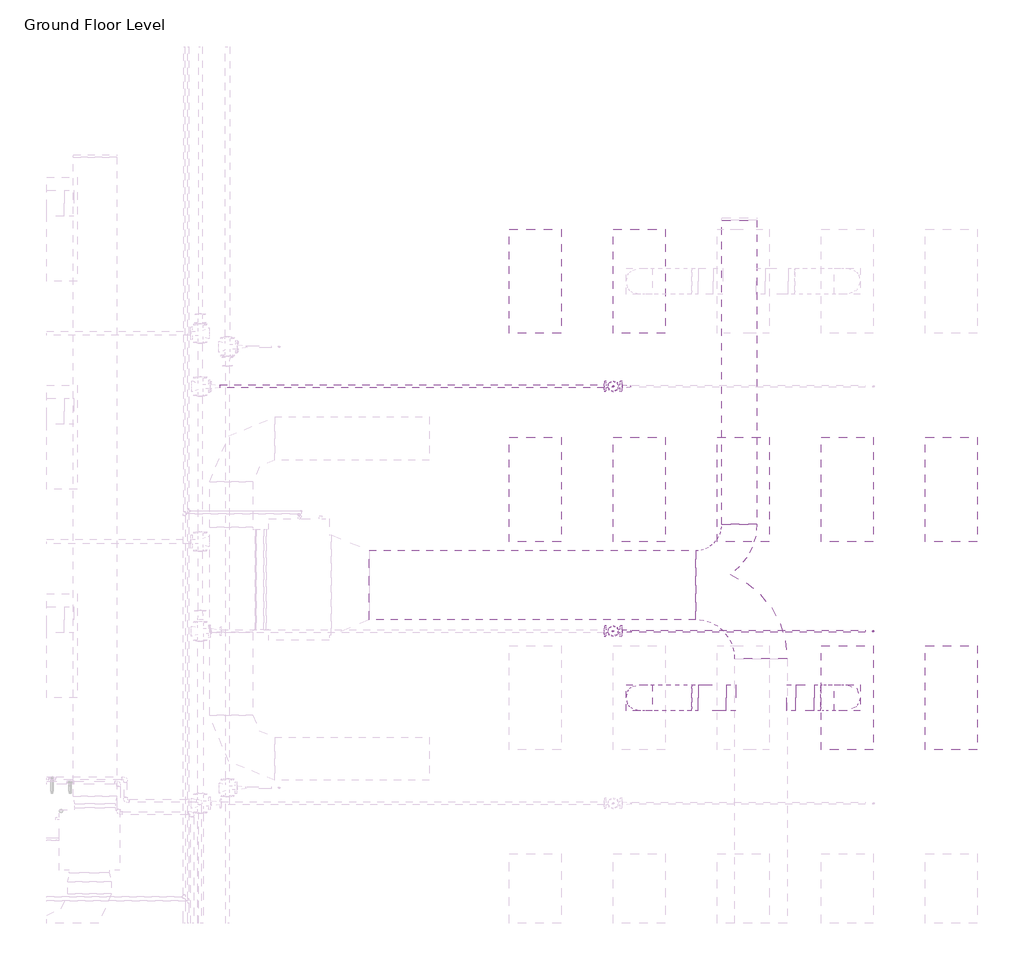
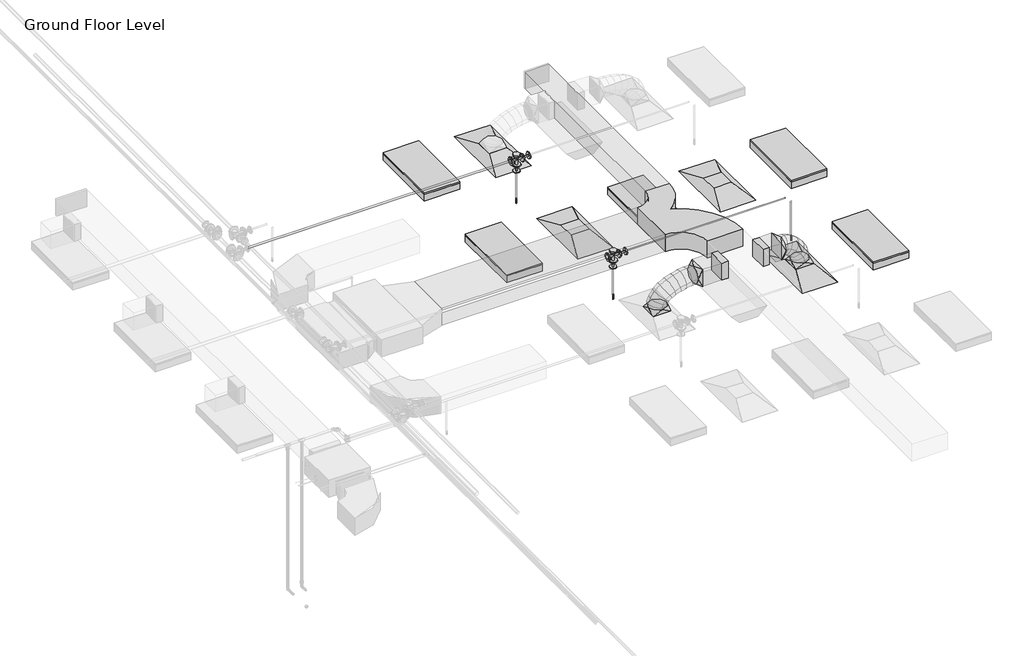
# One storey, part 28 of 75: 7 duct fittings, 6 duct segments, 6 pipe fittings, 5 light fixtures, 5 pipe segments, 4 air terminals, 3 fire suppression terminals.
"""IFC4 building model written with IfcOpenShell, lengths in millimetres."""

from ifc_helpers import new_model, si_unit, point, frame, frame_2d, origin, place, context, project, spatial, polyline, circle_curve, ellipse_curve, trimmed, segment, composite_curve, outline, extrude, transform, mapped, element, save
from ifc_brep_helpers import plane_surface, cylinder_surface, advanced_brep
from components import m_return_diffuser_1200x600_1200_x_600_face_300_x_300_d1983ef6, m_rectangular_takeoff_standard_cb0ccb98, m_rectangular_takeoff_standard_2be5eba1, m_rectangular_wye_curved_transition_standard_4ceeb4da, m_rectangular_to_round_transition_angle_45_degree_641efff0, m_sprinkler_dry_pendent_hosted_15_mm_dry_pendent_9bda8e11, m_troffer_light_parabolic_rectangular1_0600x1200mm_4_lamp_86473d4a, m_reducer_flanged_cs_class_150_standard_ccf252ad, m_tee_round_base_flanged_cs_class_150_standard_7e5987a1

model = new_model("IFC4")

# Units and contexts
model_context = context("Model", 3, world=origin())
ifc_project = project(units=[si_unit("LENGTHUNIT", "METRE", prefix="MILLI")], contexts=[model_context])

# Site, building, storey
site = spatial("IfcSite", under=ifc_project)
building = spatial("IfcBuilding", under=site)
storey = spatial("IfcBuildingStorey", under=building, Name="Ground Floor Level", Elevation=900.0)

# Air terminals
placement = place(None, origin())
m_return_diffuser_1200x600_1200_x_600_face_300_x_300_shape = m_return_diffuser_1200x600_1200_x_600_face_300_x_300_d1983ef6(model_context)
element("IfcAirTerminal", 1, ObjectType="M_Return Diffuser 1200x600 : 1200 x 600 Face 300 x 300 Connection", at=placement, inside=storey, context=model_context, shape_type="MappedRepresentation", body=[
    mapped(m_return_diffuser_1200x600_1200_x_600_face_300_x_300_shape, transform((10743.0482736, -20464.7846466, 3650.0), x_axis=(0.0, 1.0, 0.0), y_axis=(-1.0, 0.0, 0.0), z_axis=(0.0, 0.0, 1.0))),
])
element("IfcAirTerminal", 2, ObjectType="M_Return Diffuser 1200x600 : 1200 x 600 Face 300 x 300 Connection", at=placement, inside=storey, context=model_context, shape_type="MappedRepresentation", body=[
    mapped(m_return_diffuser_1200x600_1200_x_600_face_300_x_300_shape, transform((13143.0482736, -20464.7846466, 3650.0), x_axis=(0.0, 1.0, 0.0), y_axis=(-1.0, 0.0, 0.0), z_axis=(0.0, 0.0, 1.0))),
])
element("IfcAirTerminal", 3, ObjectType="M_Supply Diffuser 1200x600 : 1200 x 600 Face 300 x 300 Connection", at=placement, inside=storey, context=model_context, shape_type="MappedRepresentation", body=[
    mapped(m_return_diffuser_1200x600_1200_x_600_face_300_x_300_shape, transform((10743.0482736, -18064.7846466, 3650.0), x_axis=(0.0, 1.0, 0.0), y_axis=(-1.0, 0.0, 0.0), z_axis=(0.0, 0.0, 1.0))),
])
element("IfcAirTerminal", 4, ObjectType="M_Supply Diffuser 1200x600 : 1200 x 600 Face 300 x 300 Connection", at=placement, inside=storey, context=model_context, shape_type="MappedRepresentation", body=[
    mapped(m_return_diffuser_1200x600_1200_x_600_face_300_x_300_shape, transform((13143.0482736, -22864.7846466, 3650.0), x_axis=(0.0, 1.0, 0.0), y_axis=(-1.0, 0.0, 0.0), z_axis=(0.0, 0.0, 1.0))),
])

# Duct fittings
m_rectangular_takeoff_standard_shape = m_rectangular_takeoff_standard_cb0ccb98(model_context)
element("IfcDuctFitting", 5, ObjectType="M_Rectangular Takeoff : Standard", at=placement, inside=storey, context=model_context, shape_type="MappedRepresentation", body=[
    mapped(m_rectangular_takeoff_standard_shape, transform((12447.7826463, -22864.7846466, 4150.0), x_axis=(1.0, 0.0, 0.0), y_axis=(0.0, -1.0, 0.0), z_axis=(0.0, 0.0, -1.0))),
])
m_rectangular_takeoff_standard_2_shape = m_rectangular_takeoff_standard_2be5eba1(model_context)
element("IfcDuctFitting", 6, ObjectType="M_Rectangular Takeoff : Standard", at=placement, inside=storey, context=model_context, shape_type="MappedRepresentation", body=[
    mapped(m_rectangular_takeoff_standard_2_shape, transform((11847.7826463, -22864.7846466, 4150.0), x_axis=(-1.0, 0.0, 0.0), y_axis=(0.0, 1.0, 0.0), z_axis=(0.0, 0.0, -1.0))),
])
m_rectangular_wye_curved_transition_standard_shape = m_rectangular_wye_curved_transition_standard_4ceeb4da(model_context)
element("IfcDuctFitting", 7, ObjectType="M_Rectangular Wye - Curved - Transition : Standard", at=placement, inside=storey, context=model_context, shape_type="MappedRepresentation", body=[
    mapped(m_rectangular_wye_curved_transition_standard_shape, transform((12022.7826463, -21566.5689179, 4150.0003003), x_axis=(0.0, 1.0, 0.0), y_axis=(-0.9999999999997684, 0.0, 6.806625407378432e-07), z_axis=(6.806625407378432e-07, 0.0, 0.9999999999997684))),
])
m_rectangular_to_round_transition_angle_45_degree_shape = m_rectangular_to_round_transition_angle_45_degree_641efff0(model_context)
element("IfcDuctFitting", 8, ObjectType="M_Rectangular to Round Transition - Angle : 45 Degree", at=placement, inside=storey, context=model_context, shape_type="MappedRepresentation", body=[
    mapped(m_rectangular_to_round_transition_angle_45_degree_shape, transform((10743.0482736, -22864.7846466, 3751.6), x_axis=(0.0, 0.0, 1.0), y_axis=(-1.0, 0.0, 0.0), z_axis=(0.0, -1.0, 0.0))),
])
element("IfcDuctFitting", 9, ObjectType="M_Rectangular to Round Transition - Angle : 45 Degree", at=placement, inside=storey, context=model_context, shape_type="MappedRepresentation", body=[
    mapped(m_rectangular_to_round_transition_angle_45_degree_shape, transform((11424.4842049, -22864.7846466, 4150.0), x_axis=(-1.0, 0.0, 0.0), y_axis=(0.0, -1.0, 0.0), z_axis=(0.0, 0.0, 1.0))),
])
element("IfcDuctFitting", 10, ObjectType="M_Rectangular to Round Transition - Angle : 45 Degree", at=placement, inside=storey, context=model_context, shape_type="MappedRepresentation", body=[
    mapped(m_rectangular_to_round_transition_angle_45_degree_shape, transform((13143.0482736, -22864.7846466, 3751.6), x_axis=(0.0, 0.0, 1.0), y_axis=(-1.0, 0.0, 0.0), z_axis=(0.0, -1.0, 0.0))),
])
element("IfcDuctFitting", 11, ObjectType="M_Rectangular to Round Transition - Angle : 45 Degree", at=placement, inside=storey, context=model_context, shape_type="MappedRepresentation", body=[
    mapped(m_rectangular_to_round_transition_angle_45_degree_shape, transform((12761.6125477, -22864.7846466, 4150.0), x_axis=(1.0, 0.0, 0.0), y_axis=(0.0, 1.0, 0.0), z_axis=(0.0, 0.0, 1.0))),
])

# Duct segments
element("IfcDuctSegment", 12, ObjectType="Flex - Round", at=placement, inside=storey, context=model_context, shape_type="AdvancedBrep", body=[
    advanced_brep(
    [(10893.0482736, -22864.7846466, 3826.6), (10743.0482736, -23014.7846466, 3826.6), (10593.0482736, -22864.7846466, 3826.6), (10743.0482736, -22714.7846466, 3826.6), (10893.0482736, -22864.7846466, 3832.4838104), (10743.0482736, -23014.7846466, 3857.3049615), (10593.0482736, -22864.7846466, 3882.1261126), (10743.0482736, -22714.7846466, 3857.3049615), (10895.1777586, -22864.7846466, 3838.7421096), (10759.7096782, -23014.7846466, 3906.2708192), (10624.2415979, -22864.7846466, 3973.7995287), (10759.7096782, -22714.7846466, 3906.2708192), (10917.1997864, -22864.7846466, 3871.1472855), (10805.5876959, -23014.7846466, 3973.7798261), (10693.9756053, -22864.7846466, 4076.4123668), (10805.5876959, -22714.7846466, 3973.7798261), (10957.142511, -22864.7846466, 3903.4915826), (10874.5230324, -23014.7846466, 4029.6013814), (10791.9035539, -22864.7846466, 4155.7111802), (10874.5230324, -22714.7846466, 4029.6013814), (11020.0646936, -22864.7846466, 3936.1928758), (10960.3563938, -23014.7846466, 4074.2098454), (10900.6480941, -22864.7846466, 4212.226815), (10960.3563938, -22714.7846466, 4074.2098454), (11098.9170855, -22864.7846466, 3963.8479616), (11056.9284859, -23014.7846466, 4108.0795788), (11014.9398863, -22864.7846466, 4252.311196), (11056.9284859, -22714.7846466, 4108.0795788), (11185.4890682, -22864.7846466, 3984.0509494), (11158.0800145, -23014.7846466, 4131.684942), (11130.6709609, -22864.7846466, 4279.3189347), (11158.0800145, -22714.7846466, 4131.684942), (11271.9732516, -22864.7846466, 3996.0504424), (11257.6516856, -23014.7846466, 4145.5002956), (11243.3301196, -22864.7846466, 4294.9501488), (11257.6516856, -22714.7846466, 4145.5002956), (11346.1345531, -22864.7846466, 4000.0), (11342.1431577, -23014.7846466, 4150.0), (11338.1517622, -22864.7846466, 4300.0), (11342.1431577, -22714.7846466, 4150.0), (11349.4842049, -22864.7846466, 4000.0), (11349.4842049, -22714.7846466, 4150.0), (11349.4842049, -22864.7846466, 4300.0), (11349.4842049, -23014.7846466, 4150.0)],
    [
        (0, 1, circle_curve(frame((10743.0482736, -22864.7846466, 3826.6), z_axis=(0.0, 0.0, -1.0), x_axis=(1.0, 0.0, 0.0)), 150.0)),
        (1, 2, circle_curve(frame((10743.0482736, -22864.7846466, 3826.6), z_axis=(0.0, 0.0, -1.0), x_axis=(1.0, 0.0, 0.0)), 150.0)),
        (2, 3, circle_curve(frame((10743.0482736, -22864.7846466, 3826.6), z_axis=(0.0, 0.0, -1.0), x_axis=(1.0, 0.0, 0.0)), 150.0)),
        (3, 0, circle_curve(frame((10743.0482736, -22864.7846466, 3826.6), z_axis=(0.0, 0.0, -1.0), x_axis=(1.0, 0.0, 0.0)), 150.0)),
        (0, 4),
        (4, 5, ellipse_curve(frame((10743.0482736, -22864.7846466, 3857.3049615), z_axis=(-0.1632543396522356, 0.0, -0.9865840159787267), x_axis=(0.9865840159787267, 0.0, -0.16325433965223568)), 152.039763, 150.0)),
        (5, 1),
        (5, 6, ellipse_curve(frame((10743.0482736, -22864.7846466, 3857.3049615), z_axis=(-0.1632543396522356, 0.0, -0.9865840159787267), x_axis=(0.9865840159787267, 0.0, -0.16325433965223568)), 152.039763, 150.0)),
        (6, 2),
        (6, 7, ellipse_curve(frame((10743.0482736, -22864.7846466, 3857.3049615), z_axis=(-0.1632543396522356, 0.0, -0.9865840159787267), x_axis=(0.9865840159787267, 0.0, -0.16325433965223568)), 152.039763, 150.0)),
        (7, 3),
        (7, 4, ellipse_curve(frame((10743.0482736, -22864.7846466, 3857.3049615), z_axis=(-0.1632543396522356, 0.0, -0.9865840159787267), x_axis=(0.9865840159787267, 0.0, -0.16325433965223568)), 152.039763, 150.0)),
        (4, 8),
        (8, 9, ellipse_curve(frame((10759.7096782, -22864.7846466, 3906.2708192), z_axis=(-0.4461280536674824, 0.0, -0.8949691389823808), x_axis=(0.8949691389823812, 0.0, -0.44612805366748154)), 151.366203, 150.0)),
        (9, 5),
        (9, 10, ellipse_curve(frame((10759.7096782, -22864.7846466, 3906.2708192), z_axis=(-0.4461280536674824, 0.0, -0.8949691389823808), x_axis=(0.8949691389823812, 0.0, -0.44612805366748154)), 151.366203, 150.0)),
        (10, 6),
        (10, 11, ellipse_curve(frame((10759.7096782, -22864.7846466, 3906.2708192), z_axis=(-0.4461280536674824, 0.0, -0.8949691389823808), x_axis=(0.8949691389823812, 0.0, -0.44612805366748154)), 151.366203, 150.0)),
        (11, 7),
        (11, 8, ellipse_curve(frame((10759.7096782, -22864.7846466, 3906.2708192), z_axis=(-0.4461280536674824, 0.0, -0.8949691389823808), x_axis=(0.8949691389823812, 0.0, -0.44612805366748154)), 151.366203, 150.0)),
        (8, 12),
        (12, 13, ellipse_curve(frame((10805.5876959, -22864.7846466, 3973.7798261), z_axis=(-0.6768758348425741, 0.0, -0.7360972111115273), x_axis=(0.7360972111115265, 0.0, -0.6768758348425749)), 151.6268352, 150.0)),
        (13, 9),
        (13, 14, ellipse_curve(frame((10805.5876959, -22864.7846466, 3973.7798261), z_axis=(-0.6768758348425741, 0.0, -0.7360972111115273), x_axis=(0.7360972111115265, 0.0, -0.6768758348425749)), 151.6268352, 150.0)),
        (14, 10),
        (14, 15, ellipse_curve(frame((10805.5876959, -22864.7846466, 3973.7798261), z_axis=(-0.6768758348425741, 0.0, -0.7360972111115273), x_axis=(0.7360972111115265, 0.0, -0.6768758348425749)), 151.6268352, 150.0)),
        (15, 11),
        (15, 12, ellipse_curve(frame((10805.5876959, -22864.7846466, 3973.7798261), z_axis=(-0.6768758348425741, 0.0, -0.7360972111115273), x_axis=(0.7360972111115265, 0.0, -0.6768758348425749)), 151.6268352, 150.0)),
        (12, 16),
        (16, 17, ellipse_curve(frame((10874.5230324, -22864.7846466, 4029.6013814), z_axis=(-0.8364738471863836, 0.0, -0.5480068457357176), x_axis=(0.5480068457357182, 0.0, -0.8364738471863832)), 150.7635884, 150.0)),
        (17, 13),
        (17, 18, ellipse_curve(frame((10874.5230324, -22864.7846466, 4029.6013814), z_axis=(-0.8364738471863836, 0.0, -0.5480068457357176), x_axis=(0.5480068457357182, 0.0, -0.8364738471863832)), 150.7635884, 150.0)),
        (18, 14),
        (18, 19, ellipse_curve(frame((10874.5230324, -22864.7846466, 4029.6013814), z_axis=(-0.8364738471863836, 0.0, -0.5480068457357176), x_axis=(0.5480068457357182, 0.0, -0.8364738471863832)), 150.7635884, 150.0)),
        (19, 15),
        (19, 16, ellipse_curve(frame((10874.5230324, -22864.7846466, 4029.6013814), z_axis=(-0.8364738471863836, 0.0, -0.5480068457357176), x_axis=(0.5480068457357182, 0.0, -0.8364738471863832)), 150.7635884, 150.0)),
        (16, 20),
        (20, 21, ellipse_curve(frame((10960.3563938, -22864.7846466, 4074.2098454), z_axis=(-0.9177957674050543, 0.0, -0.3970528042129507), x_axis=(0.3970528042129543, 0.0, -0.9177957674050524)), 150.3787384, 150.0)),
        (21, 17),
        (21, 22, ellipse_curve(frame((10960.3563938, -22864.7846466, 4074.2098454), z_axis=(-0.9177957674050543, 0.0, -0.3970528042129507), x_axis=(0.3970528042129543, 0.0, -0.9177957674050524)), 150.3787384, 150.0)),
        (22, 18),
        (22, 23, ellipse_curve(frame((10960.3563938, -22864.7846466, 4074.2098454), z_axis=(-0.9177957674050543, 0.0, -0.3970528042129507), x_axis=(0.3970528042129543, 0.0, -0.9177957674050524)), 150.3787384, 150.0)),
        (23, 19),
        (23, 20, ellipse_curve(frame((10960.3563938, -22864.7846466, 4074.2098454), z_axis=(-0.9177957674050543, 0.0, -0.3970528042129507), x_axis=(0.3970528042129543, 0.0, -0.9177957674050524)), 150.3787384, 150.0)),
        (20, 24),
        (24, 25, ellipse_curve(frame((11056.9284859, -22864.7846466, 4108.0795788), z_axis=(-0.9601411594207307, 0.0, -0.27951557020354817), x_axis=(0.2795155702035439, 0.0, -0.9601411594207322)), 150.2191795, 150.0)),
        (25, 21),
        (25, 26, ellipse_curve(frame((11056.9284859, -22864.7846466, 4108.0795788), z_axis=(-0.9601411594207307, 0.0, -0.27951557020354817), x_axis=(0.2795155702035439, 0.0, -0.9601411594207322)), 150.2191795, 150.0)),
        (26, 22),
        (26, 27, ellipse_curve(frame((11056.9284859, -22864.7846466, 4108.0795788), z_axis=(-0.9601411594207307, 0.0, -0.27951557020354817), x_axis=(0.2795155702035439, 0.0, -0.9601411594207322)), 150.2191795, 150.0)),
        (27, 23),
        (27, 24, ellipse_curve(frame((11056.9284859, -22864.7846466, 4108.0795788), z_axis=(-0.9601411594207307, 0.0, -0.27951557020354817), x_axis=(0.2795155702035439, 0.0, -0.9601411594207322)), 150.2191795, 150.0)),
        (24, 28),
        (28, 29, ellipse_curve(frame((11158.0800145, -22864.7846466, 4131.684942), z_axis=(-0.9831991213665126, 0.0, -0.1825362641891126), x_axis=(0.18253626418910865, 0.0, -0.9831991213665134)), 150.1567581, 150.0)),
        (29, 25),
        (29, 30, ellipse_curve(frame((11158.0800145, -22864.7846466, 4131.684942), z_axis=(-0.9831991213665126, 0.0, -0.1825362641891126), x_axis=(0.18253626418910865, 0.0, -0.9831991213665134)), 150.1567581, 150.0)),
        (30, 26),
        (30, 31, ellipse_curve(frame((11158.0800145, -22864.7846466, 4131.684942), z_axis=(-0.9831991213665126, 0.0, -0.1825362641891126), x_axis=(0.18253626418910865, 0.0, -0.9831991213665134)), 150.1567581, 150.0)),
        (31, 27),
        (31, 28, ellipse_curve(frame((11158.0800145, -22864.7846466, 4131.684942), z_axis=(-0.9831991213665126, 0.0, -0.1825362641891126), x_axis=(0.18253626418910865, 0.0, -0.9831991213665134)), 150.1567581, 150.0)),
        (28, 32),
        (32, 33, ellipse_curve(frame((11257.6516856, -22864.7846466, 4145.5002956), z_axis=(-0.9954398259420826, 0.0, -0.09539157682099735), x_axis=(0.09539157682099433, 0.0, -0.9954398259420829)), 150.1344926, 150.0)),
        (33, 29),
        (33, 34, ellipse_curve(frame((11257.6516856, -22864.7846466, 4145.5002956), z_axis=(-0.9954398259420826, 0.0, -0.09539157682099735), x_axis=(0.09539157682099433, 0.0, -0.9954398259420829)), 150.1344926, 150.0)),
        (34, 30),
        (34, 35, ellipse_curve(frame((11257.6516856, -22864.7846466, 4145.5002956), z_axis=(-0.9954398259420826, 0.0, -0.09539157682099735), x_axis=(0.09539157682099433, 0.0, -0.9954398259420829)), 150.1344926, 150.0)),
        (35, 31),
        (35, 32, ellipse_curve(frame((11257.6516856, -22864.7846466, 4145.5002956), z_axis=(-0.9954398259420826, 0.0, -0.09539157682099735), x_axis=(0.09539157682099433, 0.0, -0.9954398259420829)), 150.1344926, 150.0)),
        (32, 36),
        (36, 37, ellipse_curve(frame((11342.1431577, -22864.7846466, 4150.0), z_axis=(-0.9996461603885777, 0.0, -0.02659988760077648), x_axis=(0.026599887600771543, 0.0, -0.9996461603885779)), 150.0530947, 150.0)),
        (37, 33),
        (37, 38, ellipse_curve(frame((11342.1431577, -22864.7846466, 4150.0), z_axis=(-0.9996461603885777, 0.0, -0.02659988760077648), x_axis=(0.026599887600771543, 0.0, -0.9996461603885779)), 150.0530947, 150.0)),
        (38, 34),
        (38, 39, ellipse_curve(frame((11342.1431577, -22864.7846466, 4150.0), z_axis=(-0.9996461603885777, 0.0, -0.02659988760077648), x_axis=(0.026599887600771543, 0.0, -0.9996461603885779)), 150.0530947, 150.0)),
        (39, 35),
        (39, 36, ellipse_curve(frame((11342.1431577, -22864.7846466, 4150.0), z_axis=(-0.9996461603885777, 0.0, -0.02659988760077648), x_axis=(0.026599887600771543, 0.0, -0.9996461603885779)), 150.0530947, 150.0)),
        (40, 41, circle_curve(frame((11349.4842049, -22864.7846466, 4150.0), z_axis=(1.0, 0.0, 0.0), x_axis=(0.0, 0.0, -1.0)), 150.0)),
        (41, 42, circle_curve(frame((11349.4842049, -22864.7846466, 4150.0), z_axis=(1.0, 0.0, 0.0), x_axis=(0.0, 0.0, -1.0)), 150.0)),
        (42, 43, circle_curve(frame((11349.4842049, -22864.7846466, 4150.0), z_axis=(1.0, 0.0, 0.0), x_axis=(0.0, 0.0, -1.0)), 150.0)),
        (43, 40, circle_curve(frame((11349.4842049, -22864.7846466, 4150.0), z_axis=(1.0, 0.0, 0.0), x_axis=(0.0, 0.0, -1.0)), 150.0)),
        (36, 40),
        (43, 37),
        (42, 38),
        (41, 39),
    ],
    [
        plane_surface(frame((10743.0482736, -23014.7846466, 3826.6), z_axis=(0.0, 0.0, -1.0), x_axis=(1.0, 0.0, 0.0))),
        cylinder_surface(frame((10743.0482736, -22864.7846466, 3826.6), z_axis=(0.0, 0.0, -1.0), x_axis=(1.0, 0.0, 0.0)), 150.0),
        cylinder_surface(frame((10743.0482736, -22864.7846466, 3857.3049615), z_axis=(-0.32212824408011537, 0.0, -0.946696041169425), x_axis=(0.946696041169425, 0.0, -0.32212824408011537)), 150.0),
        cylinder_surface(frame((10759.7096782, -22864.7846466, 3906.2708192), z_axis=(-0.5620745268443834, 0.0, -0.827086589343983), x_axis=(0.827086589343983, 0.0, -0.5620745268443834)), 150.0),
        cylinder_surface(frame((10805.5876959, -22864.7846466, 3973.7798261), z_axis=(-0.7771524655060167, 0.0, -0.6293123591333), x_axis=(0.6293123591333, 0.0, -0.7771524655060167)), 150.0),
        cylinder_surface(frame((10874.5230324, -22864.7846466, 4029.6013814), z_axis=(-0.8873220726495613, 0.0, -0.4611502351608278), x_axis=(0.4611502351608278, 0.0, -0.8873220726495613)), 150.0),
        cylinder_surface(frame((10960.3563938, -22864.7846466, 4074.2098454), z_axis=(-0.9436464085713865, 0.0, -0.33095536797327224), x_axis=(0.33095536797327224, 0.0, -0.9436464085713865)), 150.0),
        cylinder_surface(frame((11056.9284859, -22864.7846466, 4108.0795788), z_axis=(-0.9738340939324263, 0.0, -0.22726010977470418), x_axis=(0.22726010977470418, 0.0, -0.9738340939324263)), 150.0),
        cylinder_surface(frame((11158.0800145, -22864.7846466, 4131.684942), z_axis=(-0.9905113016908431, 0.0, -0.13743129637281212), x_axis=(0.13743129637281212, 0.0, -0.9905113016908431)), 150.0),
        cylinder_surface(frame((11257.6516856, -22864.7846466, 4145.5002956), z_axis=(-0.9985848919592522, 0.0, -0.05318095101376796), x_axis=(0.05318095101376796, 0.0, -0.9985848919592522)), 150.0),
        plane_surface(frame((11349.4842049, -22864.7846466, 4000.0), z_axis=(1.0, 0.0, 0.0), x_axis=(0.0, 1.0, 0.0))),
        cylinder_surface(frame((11342.1431577, -22864.7846466, 4150.0), z_axis=(-1.0, 0.0, 0.0), x_axis=(0.0, 0.0, -1.0)), 150.0),
    ],
    [
        (0, [[1, 2, 3, 4]]),
        (1, [[-1, 5, 6, 7]]),
        (1, [[-2, -7, 8, 9]]),
        (1, [[-3, -9, 10, 11]]),
        (1, [[-4, -11, 12, -5]]),
        (2, [[-6, 13, 14, 15]]),
        (2, [[-8, -15, 16, 17]]),
        (2, [[-10, -17, 18, 19]]),
        (2, [[-12, -19, 20, -13]]),
        (3, [[-14, 21, 22, 23]]),
        (3, [[-16, -23, 24, 25]]),
        (3, [[-18, -25, 26, 27]]),
        (3, [[-20, -27, 28, -21]]),
        (4, [[-22, 29, 30, 31]]),
        (4, [[-24, -31, 32, 33]]),
        (4, [[-26, -33, 34, 35]]),
        (4, [[-28, -35, 36, -29]]),
        (5, [[-30, 37, 38, 39]]),
        (5, [[-32, -39, 40, 41]]),
        (5, [[-34, -41, 42, 43]]),
        (5, [[-36, -43, 44, -37]]),
        (6, [[-38, 45, 46, 47]]),
        (6, [[-40, -47, 48, 49]]),
        (6, [[-42, -49, 50, 51]]),
        (6, [[-44, -51, 52, -45]]),
        (7, [[-46, 53, 54, 55]]),
        (7, [[-48, -55, 56, 57]]),
        (7, [[-50, -57, 58, 59]]),
        (7, [[-52, -59, 60, -53]]),
        (8, [[-54, 61, 62, 63]]),
        (8, [[-56, -63, 64, 65]]),
        (8, [[-58, -65, 66, 67]]),
        (8, [[-60, -67, 68, -61]]),
        (9, [[-62, 69, 70, 71]]),
        (9, [[-64, -71, 72, 73]]),
        (9, [[-66, -73, 74, 75]]),
        (9, [[-68, -75, 76, -69]]),
        (10, [[77, 78, 79, 80]]),
        (11, [[-70, 81, -80, 82]]),
        (11, [[-72, -82, -79, 83]]),
        (11, [[-74, -83, -78, 84]]),
        (11, [[-76, -84, -77, -81]]),
    ],
),
])
element("IfcDuctSegment", 13, ObjectType="Flex - Round", at=placement, inside=storey, context=model_context, shape_type="AdvancedBrep", body=[
    advanced_brep(
    [(13293.0482736, -22864.7846466, 3826.6), (13143.0482736, -23014.7846466, 3826.6), (12993.0482736, -22864.7846466, 3826.6), (13143.0482736, -22714.7846466, 3826.6), (13293.0482736, -22864.7846466, 3876.0801412), (13143.0482736, -23014.7846466, 3855.2056612), (12993.0482736, -22864.7846466, 3834.3311813), (13143.0482736, -22714.7846466, 3855.2056612), (13265.1827485, -22864.7846466, 3974.2593667), (13125.4356823, -23014.7846466, 3917.2604967), (12985.6886161, -22864.7846466, 3860.2616267), (13125.4356823, -22714.7846466, 3917.2604967), (13200.641408, -22864.7846466, 4092.9658971), (13077.9530706, -23014.7846466, 4004.5920588), (12955.2647333, -22864.7846466, 3916.2182204), (13077.9530706, -22714.7846466, 4004.5920588), (13104.7566275, -22864.7846466, 4195.7964222), (13008.633182, -23014.7846466, 4078.9333725), (12912.5097364, -22864.7846466, 3962.0703229), (13008.633182, -22714.7846466, 4078.9333725), (12990.1102871, -22864.7846466, 4267.0876349), (12925.5087598, -23014.7846466, 4130.6231242), (12860.9072326, -22864.7846466, 3994.1586134), (12925.5087598, -22714.7846466, 4130.6231242), (12893.3776503, -22864.7846466, 4300.0), (12868.5582402, -23014.7846466, 4150.0), (12843.7388301, -22864.7846466, 4000.0), (12868.5582402, -22714.7846466, 4150.0), (12836.6125477, -22864.7846466, 4300.0), (12836.6125477, -23014.7846466, 4150.0), (12836.6125477, -22864.7846466, 4000.0), (12836.6125477, -22714.7846466, 4150.0)],
    [
        (0, 1, circle_curve(frame((13143.0482736, -22864.7846466, 3826.6), z_axis=(0.0, 0.0, -1.0), x_axis=(1.0, 0.0, 0.0)), 150.0)),
        (1, 2, circle_curve(frame((13143.0482736, -22864.7846466, 3826.6), z_axis=(0.0, 0.0, -1.0), x_axis=(1.0, 0.0, 0.0)), 150.0)),
        (2, 3, circle_curve(frame((13143.0482736, -22864.7846466, 3826.6), z_axis=(0.0, 0.0, -1.0), x_axis=(1.0, 0.0, 0.0)), 150.0)),
        (3, 0, circle_curve(frame((13143.0482736, -22864.7846466, 3826.6), z_axis=(0.0, 0.0, -1.0), x_axis=(1.0, 0.0, 0.0)), 150.0)),
        (0, 4),
        (4, 5, ellipse_curve(frame((13143.0482736, -22864.7846466, 3855.2056612), z_axis=(0.13783491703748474, 0.0, -0.9904552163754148), x_axis=(-0.9904552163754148, 0.0, -0.13783491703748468)), 151.4455147, 150.0)),
        (5, 1),
        (5, 6, ellipse_curve(frame((13143.0482736, -22864.7846466, 3855.2056612), z_axis=(0.13783491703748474, 0.0, -0.9904552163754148), x_axis=(-0.9904552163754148, 0.0, -0.13783491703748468)), 151.4455147, 150.0)),
        (6, 2),
        (6, 7, ellipse_curve(frame((13143.0482736, -22864.7846466, 3855.2056612), z_axis=(0.13783491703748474, 0.0, -0.9904552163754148), x_axis=(-0.9904552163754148, 0.0, -0.13783491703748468)), 151.4455147, 150.0)),
        (7, 3),
        (7, 4, ellipse_curve(frame((13143.0482736, -22864.7846466, 3855.2056612), z_axis=(0.13783491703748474, 0.0, -0.9904552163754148), x_axis=(-0.9904552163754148, 0.0, -0.13783491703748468)), 151.4455147, 150.0)),
        (4, 8),
        (8, 9, ellipse_curve(frame((13125.4356823, -22864.7846466, 3917.2604967), z_axis=(0.3776655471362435, 0.0, -0.9259420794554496), x_axis=(-0.9259420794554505, 0.0, -0.3776655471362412)), 150.9241985, 150.0)),
        (9, 5),
        (9, 10, ellipse_curve(frame((13125.4356823, -22864.7846466, 3917.2604967), z_axis=(0.3776655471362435, 0.0, -0.9259420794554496), x_axis=(-0.9259420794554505, 0.0, -0.3776655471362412)), 150.9241985, 150.0)),
        (10, 6),
        (10, 11, ellipse_curve(frame((13125.4356823, -22864.7846466, 3917.2604967), z_axis=(0.3776655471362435, 0.0, -0.9259420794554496), x_axis=(-0.9259420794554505, 0.0, -0.3776655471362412)), 150.9241985, 150.0)),
        (11, 7),
        (11, 8, ellipse_curve(frame((13125.4356823, -22864.7846466, 3917.2604967), z_axis=(0.3776655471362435, 0.0, -0.9259420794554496), x_axis=(-0.9259420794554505, 0.0, -0.3776655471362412)), 150.9241985, 150.0)),
        (8, 12),
        (12, 13, ellipse_curve(frame((13077.9530706, -22864.7846466, 4004.5920588), z_axis=(0.5844712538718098, 0.0, -0.8114144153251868), x_axis=(-0.8114144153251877, 0.0, -0.5844712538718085)), 151.2030536, 150.0)),
        (13, 9),
        (13, 14, ellipse_curve(frame((13077.9530706, -22864.7846466, 4004.5920588), z_axis=(0.5844712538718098, 0.0, -0.8114144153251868), x_axis=(-0.8114144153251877, 0.0, -0.5844712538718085)), 151.2030536, 150.0)),
        (14, 10),
        (14, 15, ellipse_curve(frame((13077.9530706, -22864.7846466, 4004.5920588), z_axis=(0.5844712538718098, 0.0, -0.8114144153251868), x_axis=(-0.8114144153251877, 0.0, -0.5844712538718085)), 151.2030536, 150.0)),
        (15, 11),
        (15, 12, ellipse_curve(frame((13077.9530706, -22864.7846466, 4004.5920588), z_axis=(0.5844712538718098, 0.0, -0.8114144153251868), x_axis=(-0.8114144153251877, 0.0, -0.5844712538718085)), 151.2030536, 150.0)),
        (12, 16),
        (16, 17, ellipse_curve(frame((13008.633182, -22864.7846466, 4078.9333725), z_axis=(0.7723086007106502, 0.0, -0.6352475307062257), x_axis=(-0.6352475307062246, 0.0, -0.7723086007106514)), 151.3165198, 150.0)),
        (17, 13),
        (17, 18, ellipse_curve(frame((13008.633182, -22864.7846466, 4078.9333725), z_axis=(0.7723086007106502, 0.0, -0.6352475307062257), x_axis=(-0.6352475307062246, 0.0, -0.7723086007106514)), 151.3165198, 150.0)),
        (18, 14),
        (18, 19, ellipse_curve(frame((13008.633182, -22864.7846466, 4078.9333725), z_axis=(0.7723086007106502, 0.0, -0.6352475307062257), x_axis=(-0.6352475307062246, 0.0, -0.7723086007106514)), 151.3165198, 150.0)),
        (19, 15),
        (19, 16, ellipse_curve(frame((13008.633182, -22864.7846466, 4078.9333725), z_axis=(0.7723086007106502, 0.0, -0.6352475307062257), x_axis=(-0.6352475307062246, 0.0, -0.7723086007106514)), 151.3165198, 150.0)),
        (16, 20),
        (20, 21, ellipse_curve(frame((12925.5087598, -22864.7846466, 4130.6231242), z_axis=(0.9038391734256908, 0.0, -0.4278723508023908), x_axis=(-0.4278723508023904, 0.0, -0.903839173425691)), 150.983178, 150.0)),
        (21, 17),
        (21, 22, ellipse_curve(frame((12925.5087598, -22864.7846466, 4130.6231242), z_axis=(0.9038391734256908, 0.0, -0.4278723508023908), x_axis=(-0.4278723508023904, 0.0, -0.903839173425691)), 150.983178, 150.0)),
        (22, 18),
        (22, 23, ellipse_curve(frame((12925.5087598, -22864.7846466, 4130.6231242), z_axis=(0.9038391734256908, 0.0, -0.4278723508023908), x_axis=(-0.4278723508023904, 0.0, -0.903839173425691)), 150.983178, 150.0)),
        (23, 19),
        (23, 20, ellipse_curve(frame((12925.5087598, -22864.7846466, 4130.6231242), z_axis=(0.9038391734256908, 0.0, -0.4278723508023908), x_axis=(-0.4278723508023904, 0.0, -0.903839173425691)), 150.983178, 150.0)),
        (20, 24),
        (24, 25, ellipse_curve(frame((12868.5582402, -22864.7846466, 4150.0), z_axis=(0.9865858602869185, 0.0, -0.16324319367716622), x_axis=(-0.16324319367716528, 0.0, -0.9865858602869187)), 152.0394788, 150.0)),
        (25, 21),
        (25, 26, ellipse_curve(frame((12868.5582402, -22864.7846466, 4150.0), z_axis=(0.9865858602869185, 0.0, -0.16324319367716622), x_axis=(-0.16324319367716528, 0.0, -0.9865858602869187)), 152.0394788, 150.0)),
        (26, 22),
        (26, 27, ellipse_curve(frame((12868.5582402, -22864.7846466, 4150.0), z_axis=(0.9865858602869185, 0.0, -0.16324319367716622), x_axis=(-0.16324319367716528, 0.0, -0.9865858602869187)), 152.0394788, 150.0)),
        (27, 23),
        (27, 24, ellipse_curve(frame((12868.5582402, -22864.7846466, 4150.0), z_axis=(0.9865858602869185, 0.0, -0.16324319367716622), x_axis=(-0.16324319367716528, 0.0, -0.9865858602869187)), 152.0394788, 150.0)),
        (24, 28),
        (28, 29, circle_curve(frame((12836.6125477, -22864.7846466, 4150.0), z_axis=(1.0, 0.0, 0.0), x_axis=(0.0, 0.0, 1.0)), 150.0)),
        (29, 25),
        (29, 30, circle_curve(frame((12836.6125477, -22864.7846466, 4150.0), z_axis=(1.0, 0.0, 0.0), x_axis=(0.0, 0.0, 1.0)), 150.0)),
        (30, 26),
        (30, 31, circle_curve(frame((12836.6125477, -22864.7846466, 4150.0), z_axis=(1.0, 0.0, 0.0), x_axis=(0.0, 0.0, 1.0)), 150.0)),
        (31, 27),
        (31, 28, circle_curve(frame((12836.6125477, -22864.7846466, 4150.0), z_axis=(1.0, 0.0, 0.0), x_axis=(0.0, 0.0, 1.0)), 150.0)),
    ],
    [
        plane_surface(frame((13143.0482736, -23014.7846466, 3826.6), z_axis=(0.0, 0.0, -1.0), x_axis=(1.0, 0.0, 0.0))),
        cylinder_surface(frame((13143.0482736, -22864.7846466, 3826.6), z_axis=(0.0, 0.0, -1.0), x_axis=(1.0, 0.0, 0.0)), 150.0),
        cylinder_surface(frame((13143.0482736, -22864.7846466, 3855.2056612), z_axis=(0.2730386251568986, 0.0, -0.9620030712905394), x_axis=(0.9620030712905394, 0.0, 0.2730386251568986)), 150.0),
        cylinder_surface(frame((13125.4356823, -22864.7846466, 3917.2604967), z_axis=(0.4776671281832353, 0.0, -0.8785409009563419), x_axis=(0.8785409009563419, 0.0, 0.4776671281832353)), 150.0),
        cylinder_surface(frame((13077.9530706, -22864.7846466, 4004.5920588), z_axis=(0.6819746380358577, 0.0, -0.73137582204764), x_axis=(0.73137582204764, 0.0, 0.6819746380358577)), 150.0),
        cylinder_surface(frame((13008.633182, -22864.7846466, 4078.9333725), z_axis=(0.8492037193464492, 0.0, -0.5280653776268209), x_axis=(0.5280653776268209, 0.0, 0.8492037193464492)), 150.0),
        cylinder_surface(frame((12925.5087598, -22864.7846466, 4130.6231242), z_axis=(0.9467033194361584, 0.0, -0.3221068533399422), x_axis=(0.3221068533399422, 0.0, 0.9467033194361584)), 150.0),
        cylinder_surface(frame((12868.5582402, -22864.7846466, 4150.0), z_axis=(1.0, 0.0, 0.0), x_axis=(0.0, 0.0, 1.0)), 150.0),
        plane_surface(frame((12836.6125477, -22864.7846466, 4000.0), z_axis=(-1.0, 0.0, 0.0), x_axis=(0.0, -1.0, 0.0))),
    ],
    [
        (0, [[1, 2, 3, 4]]),
        (1, [[-1, 5, 6, 7]]),
        (1, [[-2, -7, 8, 9]]),
        (1, [[-3, -9, 10, 11]]),
        (1, [[-4, -11, 12, -5]]),
        (2, [[-6, 13, 14, 15]]),
        (2, [[-8, -15, 16, 17]]),
        (2, [[-10, -17, 18, 19]]),
        (2, [[-12, -19, 20, -13]]),
        (3, [[-14, 21, 22, 23]]),
        (3, [[-16, -23, 24, 25]]),
        (3, [[-18, -25, 26, 27]]),
        (3, [[-20, -27, 28, -21]]),
        (4, [[-22, 29, 30, 31]]),
        (4, [[-24, -31, 32, 33]]),
        (4, [[-26, -33, 34, 35]]),
        (4, [[-28, -35, 36, -29]]),
        (5, [[-30, 37, 38, 39]]),
        (5, [[-32, -39, 40, 41]]),
        (5, [[-34, -41, 42, 43]]),
        (5, [[-36, -43, 44, -37]]),
        (6, [[-38, 45, 46, 47]]),
        (6, [[-40, -47, 48, 49]]),
        (6, [[-42, -49, 50, 51]]),
        (6, [[-44, -51, 52, -45]]),
        (7, [[-46, 53, 54, 55]]),
        (7, [[-48, -55, 56, 57]]),
        (7, [[-50, -57, 58, 59]]),
        (7, [[-52, -59, 60, -53]]),
        (8, [[-60, -58, -56, -54]]),
    ],
),
])
element("IfcDuctSegment", 14, ObjectType="Radius Elbows / Taps", at=placement, inside=storey, context=model_context, shape_type="SweptSolid", body=[
    extrude(outline(polyline([(7632.7177312, -21966.5689179), (7632.7177312, -21166.5689179), (11394.6076463, -21166.5689179), (11394.6076463, -21966.5689179), (7632.7177312, -21966.5689179)])), frame((0.0, 0.0, 4000.0007279), z_axis=(0.0, 0.0, 1.0), x_axis=(1.0, 0.0, 0.0)), (0.0, 0.0, 1.0), 300.0),
])
element("IfcDuctSegment", 15, ObjectType="Radius Elbows / Taps", at=placement, inside=storey, context=model_context, shape_type="SweptSolid", body=[
    extrude(outline(polyline([(11697.7826463, -17358.2846466), (12097.7826463, -17358.2846466), (12097.7826463, -20866.5689179), (11697.7826463, -20866.5689179), (11697.7826463, -17358.2846466)])), frame((0.0, 0.0, 4000.0003854), z_axis=(0.0, 0.0, 1.0), x_axis=(1.0, 0.0, 0.0)), (0.0, 0.0, 1.0), 300.0),
])
element("IfcDuctSegment", 16, ObjectType="Radius Elbows / Taps", at=placement, inside=storey, context=model_context, shape_type="SweptSolid", body=[
    extrude(outline(polyline([(11746.1826463, -22714.7846466), (11746.1826463, -23014.7846466), (11424.4842049, -23014.7846466), (11424.4842049, -22714.7846466), (11746.1826463, -22714.7846466)])), frame((0.0, 0.0, 4000.0), z_axis=(0.0, 0.0, 1.0), x_axis=(1.0, 0.0, 0.0)), (0.0, 0.0, 1.0), 300.0),
])
element("IfcDuctSegment", 17, ObjectType="Radius Elbows / Taps", at=placement, inside=storey, context=model_context, shape_type="SweptSolid", body=[
    extrude(outline(polyline([(12549.3826463, -23014.7846466), (12549.3826463, -22714.7846466), (12761.6125477, -22714.7846466), (12761.6125477, -23014.7846466), (12549.3826463, -23014.7846466)])), frame((0.0, 0.0, 4000.0), z_axis=(0.0, 0.0, 1.0), x_axis=(1.0, 0.0, 0.0)), (0.0, 0.0, 1.0), 300.0),
])

# Fire suppression terminals
m_sprinkler_dry_pendent_hosted_15_mm_dry_pendent_shape = m_sprinkler_dry_pendent_hosted_15_mm_dry_pendent_9bda8e11(model_context)
element("IfcFireSuppressionTerminal", 18, ObjectType="M_Sprinkler - Dry - Pendent - Hosted : 15 mm Dry Pendent", at=placement, inside=storey, context=model_context, shape_type="MappedRepresentation", body=[
    mapped(m_sprinkler_dry_pendent_hosted_15_mm_dry_pendent_shape, transform((10443.0482736, -19275.8856124, 3650.0), x_axis=(1.0, 0.0, 0.0), y_axis=(0.0, -1.0, 0.0), z_axis=(0.0, 0.0, -1.0))),
])
element("IfcFireSuppressionTerminal", 19, ObjectType="M_Sprinkler - Dry - Pendent - Hosted : 15 mm Dry Pendent", at=placement, inside=storey, context=model_context, shape_type="MappedRepresentation", body=[
    mapped(m_sprinkler_dry_pendent_hosted_15_mm_dry_pendent_shape, transform((10443.0482736, -22098.0287346, 3650.0), x_axis=(1.0, 0.0, 0.0), y_axis=(0.0, -1.0, 0.0), z_axis=(0.0, 0.0, -1.0))),
])
element("IfcFireSuppressionTerminal", 20, ObjectType="M_Sprinkler - Dry - Pendent - Hosted : 15 mm Dry Pendent", at=placement, inside=storey, context=model_context, shape_type="MappedRepresentation", body=[
    mapped(m_sprinkler_dry_pendent_hosted_15_mm_dry_pendent_shape, transform((13443.0482736, -22098.0287346, 3650.0), x_axis=(1.0, 0.0, 0.0), y_axis=(0.0, -1.0, 0.0), z_axis=(0.0, 0.0, -1.0))),
])

# Light fixtures
m_troffer_light_parabolic_rectangular1_0600x1200mm_4_lamp_shape = m_troffer_light_parabolic_rectangular1_0600x1200mm_4_lamp_86473d4a(model_context)
element("IfcLightFixture", 21, ObjectType="M_Troffer Light - Parabolic Rectangular1 : 0600x1200mm(4 Lamp) - 277V 2", at=placement, inside=storey, context=model_context, shape_type="MappedRepresentation", body=[
    mapped(m_troffer_light_parabolic_rectangular1_0600x1200mm_4_lamp_shape, transform((9483.5823415, -18046.081145, 3650.0), x_axis=(0.0, 1.0, 0.0), y_axis=(-1.0, 0.0, 0.0), z_axis=(0.0, 0.0, 1.0))),
])
element("IfcLightFixture", 22, ObjectType="M_Troffer Light - Parabolic Rectangular1 : 0600x1200mm(4 Lamp) - 277V 2", at=placement, inside=storey, context=model_context, shape_type="MappedRepresentation", body=[
    mapped(m_troffer_light_parabolic_rectangular1_0600x1200mm_4_lamp_shape, transform((9483.5823415, -20446.081145, 3650.0), x_axis=(0.0, 1.0, 0.0), y_axis=(-1.0, 0.0, 0.0), z_axis=(0.0, 0.0, 1.0))),
])
element("IfcLightFixture", 23, ObjectType="M_Troffer Light - Parabolic Rectangular1 : 0600x1200mm(4 Lamp) - 277V 2", at=placement, inside=storey, context=model_context, shape_type="MappedRepresentation", body=[
    mapped(m_troffer_light_parabolic_rectangular1_0600x1200mm_4_lamp_shape, transform((11883.5823415, -20446.081145, 3650.0), x_axis=(0.0, 1.0, 0.0), y_axis=(-1.0, 0.0, 0.0), z_axis=(0.0, 0.0, 1.0))),
])
element("IfcLightFixture", 24, ObjectType="M_Troffer Light - Parabolic Rectangular1 : 0600x1200mm(4 Lamp) - 277V 2", at=placement, inside=storey, context=model_context, shape_type="MappedRepresentation", body=[
    mapped(m_troffer_light_parabolic_rectangular1_0600x1200mm_4_lamp_shape, transform((14283.5823415, -20446.081145, 3650.0), x_axis=(0.0, 1.0, 0.0), y_axis=(-1.0, 0.0, 0.0), z_axis=(0.0, 0.0, 1.0))),
])
element("IfcLightFixture", 25, ObjectType="M_Troffer Light - Parabolic Rectangular1 : 0600x1200mm(4 Lamp) - 277V 2", at=placement, inside=storey, context=model_context, shape_type="MappedRepresentation", body=[
    mapped(m_troffer_light_parabolic_rectangular1_0600x1200mm_4_lamp_shape, transform((14283.5823415, -22846.081145, 3650.0), x_axis=(0.0, 1.0, 0.0), y_axis=(-1.0, 0.0, 0.0), z_axis=(0.0, 0.0, 1.0))),
])

# Pipe fittings
m_reducer_flanged_cs_class_150_standard_shape = m_reducer_flanged_cs_class_150_standard_ccf252ad(model_context)
element("IfcPipeFitting", 26, ObjectType="M_Reducer - Flanged - CS - Class 150 : Standard", at=placement, inside=storey, context=model_context, shape_type="MappedRepresentation", body=[
    mapped(m_reducer_flanged_cs_class_150_standard_shape, transform((10543.7568674, -22098.0287346, 4347.5), x_axis=(1.0, 0.0, 0.0), y_axis=(0.0, 0.0, 1.0), z_axis=(0.0, -1.0, 0.0))),
])
element("IfcPipeFitting", 27, ObjectType="M_Reducer - Flanged - CS - Class 150 : Standard", at=placement, inside=storey, context=model_context, shape_type="MappedRepresentation", body=[
    mapped(m_reducer_flanged_cs_class_150_standard_shape, transform((10443.0482736, -22098.0287346, 4246.7914063), x_axis=(0.0, 0.0, -1.0), y_axis=(-1.0, 0.0, 0.0), z_axis=(0.0, 1.0, 0.0))),
])
element("IfcPipeFitting", 28, ObjectType="M_Reducer - Flanged - CS - Class 150 : Standard", at=placement, inside=storey, context=model_context, shape_type="MappedRepresentation", body=[
    mapped(m_reducer_flanged_cs_class_150_standard_shape, transform((10543.7568674, -19275.8856124, 4347.5), x_axis=(1.0, 0.0, 0.0), y_axis=(0.0, 0.0, 1.0), z_axis=(0.0, -1.0, 0.0))),
])
element("IfcPipeFitting", 29, ObjectType="M_Reducer - Flanged - CS - Class 150 : Standard", at=placement, inside=storey, context=model_context, shape_type="MappedRepresentation", body=[
    mapped(m_reducer_flanged_cs_class_150_standard_shape, transform((10443.0482736, -19275.8856124, 4246.7914063), x_axis=(0.0, 0.0, -1.0), y_axis=(-1.0, 0.0, 0.0), z_axis=(0.0, 1.0, 0.0))),
])
m_tee_round_base_flanged_cs_class_150_standard_shape = m_tee_round_base_flanged_cs_class_150_standard_7e5987a1(model_context)
element("IfcPipeFitting", 30, ObjectType="M_Tee Round Base - Flanged - CS - Class 150 : Standard", at=placement, inside=storey, context=model_context, shape_type="MappedRepresentation", body=[
    mapped(m_tee_round_base_flanged_cs_class_150_standard_shape, transform((10443.0482736, -22098.0287346, 4347.5), x_axis=(1.0, 0.0, 0.0), y_axis=(0.0, 0.0, 1.0), z_axis=(0.0, -1.0, 0.0))),
])
element("IfcPipeFitting", 31, ObjectType="M_Tee Round Base - Flanged - CS - Class 150 : Standard", at=placement, inside=storey, context=model_context, shape_type="MappedRepresentation", body=[
    mapped(m_tee_round_base_flanged_cs_class_150_standard_shape, transform((10443.0482736, -19275.8856124, 4347.5), x_axis=(1.0, 0.0, 0.0), y_axis=(0.0, 0.0, 1.0), z_axis=(0.0, -1.0, 0.0))),
])

# Pipe segments
element("IfcPipeSegment", 32, ObjectType="Steel flanged", at=placement, inside=storey, context=model_context, shape_type="SweptSolid", body=[
    extrude(outline(composite_curve([segment(trimmed(circle_curve(frame_2d((13443.0482736, -22098.0287346)), 10.668), [point((13432.3802736, -22098.0287346))], [point((13443.0482736, -22087.3607346))], False, "CARTESIAN"), True, "CONTINUOUS"), segment(trimmed(circle_curve(frame_2d((13443.0482736, -22098.0287346)), 10.668), [point((13443.0482736, -22087.3607346))], [point((13453.7162736, -22098.0287346))], False, "CARTESIAN"), True, "CONTINUOUS"), segment(trimmed(circle_curve(frame_2d((13443.0482736, -22098.0287346)), 10.668), [point((13453.7162736, -22098.0287346))], [point((13443.0482736, -22108.6967346))], False, "CARTESIAN"), True, "CONTINUOUS"), segment(trimmed(circle_curve(frame_2d((13443.0482736, -22098.0287346)), 10.668), [point((13443.0482736, -22108.6967346))], [point((13432.3802736, -22098.0287346))], False, "CARTESIAN"), True, "CONTINUOUS")], self_intersect=False)), frame((0.0, 0.0, 3650.0), z_axis=(0.0, 0.0, 1.0), x_axis=(1.0, 0.0, 0.0)), (0.0, 0.0, 1.0), 604.4914062),
])
element("IfcPipeSegment", 33, ObjectType="Steel flanged", at=placement, inside=storey, context=model_context, shape_type="SweptSolid", body=[
    extrude(outline(composite_curve([segment(trimmed(circle_curve(frame_2d((10443.0482736, -22098.0287346)), 10.668), [point((10432.3802736, -22098.0287346))], [point((10443.0482736, -22087.3607346))], False, "CARTESIAN"), True, "CONTINUOUS"), segment(trimmed(circle_curve(frame_2d((10443.0482736, -22098.0287346)), 10.668), [point((10443.0482736, -22087.3607346))], [point((10453.7162736, -22098.0287346))], False, "CARTESIAN"), True, "CONTINUOUS"), segment(trimmed(circle_curve(frame_2d((10443.0482736, -22098.0287346)), 10.668), [point((10453.7162736, -22098.0287346))], [point((10443.0482736, -22108.6967346))], False, "CARTESIAN"), True, "CONTINUOUS"), segment(trimmed(circle_curve(frame_2d((10443.0482736, -22098.0287346)), 10.668), [point((10443.0482736, -22108.6967346))], [point((10432.3802736, -22098.0287346))], False, "CARTESIAN"), True, "CONTINUOUS")], self_intersect=False)), frame((0.0, 0.0, 3650.0), z_axis=(0.0, 0.0, 1.0), x_axis=(1.0, 0.0, 0.0)), (0.0, 0.0, 1.0), 482.7914062),
])
element("IfcPipeSegment", 34, ObjectType="Steel flanged", at=placement, inside=storey, context=model_context, shape_type="SweptSolid", body=[
    extrude(outline(composite_curve([segment(trimmed(circle_curve(frame_2d((-22098.0287346, 4347.5)), 10.668), [point((-22087.3607346, 4347.5))], [point((-22098.0287346, 4336.832))], False, "CARTESIAN"), True, "CONTINUOUS"), segment(trimmed(circle_curve(frame_2d((-22098.0287346, 4347.5)), 10.668), [point((-22098.0287346, 4336.832))], [point((-22108.6967346, 4347.5))], False, "CARTESIAN"), True, "CONTINUOUS"), segment(trimmed(circle_curve(frame_2d((-22098.0287346, 4347.5)), 10.668), [point((-22108.6967346, 4347.5))], [point((-22098.0287346, 4358.168))], False, "CARTESIAN"), True, "CONTINUOUS"), segment(trimmed(circle_curve(frame_2d((-22098.0287346, 4347.5)), 10.668), [point((-22098.0287346, 4358.168))], [point((-22087.3607346, 4347.5))], False, "CARTESIAN"), True, "CONTINUOUS")], self_intersect=False)), frame((10657.7568674, 0.0, 0.0), z_axis=(1.0, 0.0, 0.0), x_axis=(0.0, 1.0, 0.0)), (0.0, 0.0, 1.0), 2692.2828125),
])
element("IfcPipeSegment", 35, ObjectType="Steel flanged", at=placement, inside=storey, context=model_context, shape_type="SweptSolid", body=[
    extrude(outline(composite_curve([segment(trimmed(circle_curve(frame_2d((10443.0482736, -19275.8856124)), 10.668), [point((10432.3802736, -19275.8856124))], [point((10443.0482736, -19265.2176124))], False, "CARTESIAN"), True, "CONTINUOUS"), segment(trimmed(circle_curve(frame_2d((10443.0482736, -19275.8856124)), 10.668), [point((10443.0482736, -19265.2176124))], [point((10453.7162736, -19275.8856124))], False, "CARTESIAN"), True, "CONTINUOUS"), segment(trimmed(circle_curve(frame_2d((10443.0482736, -19275.8856124)), 10.668), [point((10453.7162736, -19275.8856124))], [point((10443.0482736, -19286.5536124))], False, "CARTESIAN"), True, "CONTINUOUS"), segment(trimmed(circle_curve(frame_2d((10443.0482736, -19275.8856124)), 10.668), [point((10443.0482736, -19286.5536124))], [point((10432.3802736, -19275.8856124))], False, "CARTESIAN"), True, "CONTINUOUS")], self_intersect=False)), frame((0.0, 0.0, 3650.0), z_axis=(0.0, 0.0, 1.0), x_axis=(1.0, 0.0, 0.0)), (0.0, 0.0, 1.0), 482.7914062),
])
element("IfcPipeSegment", 36, ObjectType="Steel flanged", at=placement, inside=storey, context=model_context, shape_type="SweptSolid", body=[
    extrude(outline(composite_curve([segment(trimmed(circle_curve(frame_2d((-19275.8856124, 4347.5)), 16.7005), [point((-19259.1851124, 4347.5))], [point((-19275.8856124, 4330.7995))], False, "CARTESIAN"), True, "CONTINUOUS"), segment(trimmed(circle_curve(frame_2d((-19275.8856124, 4347.5)), 16.7005), [point((-19275.8856124, 4330.7995))], [point((-19292.5861124, 4347.5))], False, "CARTESIAN"), True, "CONTINUOUS"), segment(trimmed(circle_curve(frame_2d((-19275.8856124, 4347.5)), 16.7005), [point((-19292.5861124, 4347.5))], [point((-19275.8856124, 4364.2005))], False, "CARTESIAN"), True, "CONTINUOUS"), segment(trimmed(circle_curve(frame_2d((-19275.8856124, 4347.5)), 16.7005), [point((-19275.8856124, 4364.2005))], [point((-19259.1851124, 4347.5))], False, "CARTESIAN"), True, "CONTINUOUS")], self_intersect=False)), frame((5910.8760832, 0.0, 0.0), z_axis=(1.0, 0.0, 0.0), x_axis=(0.0, 1.0, 0.0)), (0.0, 0.0, 1.0), 4431.4635967),
])

save(model, "model.ifc")
